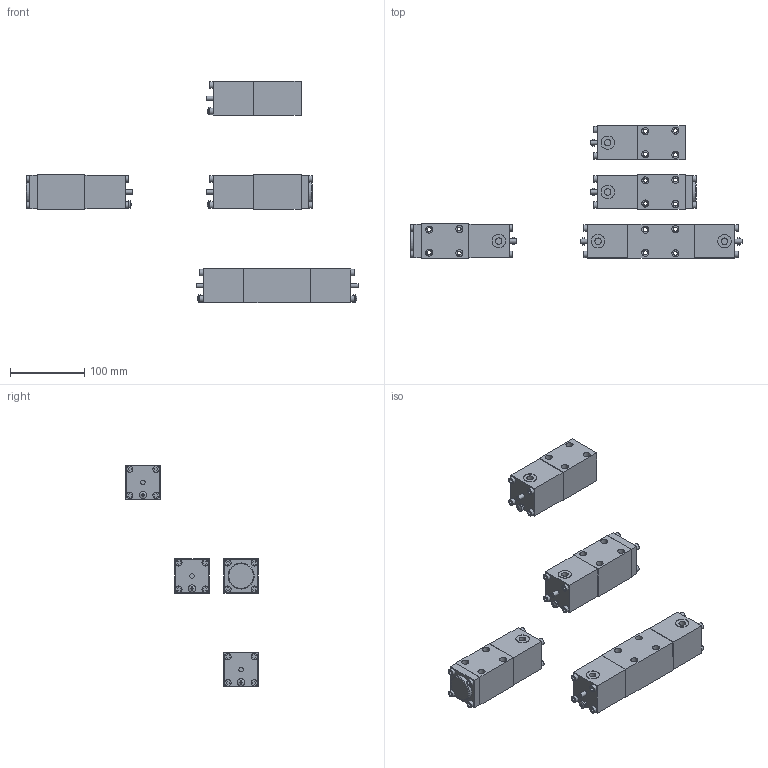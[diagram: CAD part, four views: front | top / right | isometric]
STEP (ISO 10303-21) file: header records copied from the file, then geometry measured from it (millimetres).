
FILE_DESCRIPTION(('Bauteilbeschreibung','HiCAD-Model','HiCAD-STEP-TRANSLATION','Bauteilbeschreibung'),'2;1');
FILE_NAME('C:/_EIGENE_DATEN/DXF_STEP/AK_06_4208..STP','2008-10-14T10:16:37+00:00',('Konstrukteur'),('Konstrukteur Firma GmbH'),' HiCAD neXt 2007, Step 3.1.1212.3C ','HiCAD neXt 2007','confidential');
FILE_SCHEMA(('AUTOMOTIVE_DESIGN { 1 2 10303 214 0 1 1 1 }'));
Length unit declared in the file: millimetre
Products named in the file (62): AK_06_4208 ; AK22061A; ABAEAB18; AB6C5656; AB6C56560; IN6KTM5; IN6KTM50; IN6KTM51; IN6KTM52; IN6KTM53; AK22061A0; AK32061A; AF9318D0; AB6C56561; AB6C56562; IN6KTM54; IN6KTM55; IN6KTM56; IN6KTM57; IN6KTM58; F77E93F1; F77E93F10; IN6KTM59; IN6KTM510; IN6KTM511; IN6KTM512; IN6KTM513; AB294FE8; AK_2060B; A6DB5EC2; F77E93F11; F77E93F12; IN6KTM514; IN6KTM515; IN6KTM516; IN6KTM517; IN6KTM518; AB6C56563; AB6C56564; IN6KTM519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
Assembly tree (61 placements, depth 6):
  AK_06_4208 
    AK22061A
      ABAEAB18
        AB6C5656
        AB6C56560
          IN6KTM5
            IN6KTM50
            IN6KTM51
            IN6KTM52
            IN6KTM53
        AK22061A0
    AK32061A
      AF9318D0
        AB6C56561
        AB6C56562
          IN6KTM54
            IN6KTM55
            IN6KTM56
            IN6KTM57
            IN6KTM58
        F77E93F1
        F77E93F10
          IN6KTM59
            IN6KTM510
            IN6KTM511
            IN6KTM512
            IN6KTM513
        AB294FE8
    AK_2060B
      A6DB5EC2
        F77E93F11
        F77E93F12
          IN6KTM514
            IN6KTM515
            IN6KTM516
            IN6KTM517
            IN6KTM518
        AB6C56563
        AB6C56564
          IN6KTM519
            IN6KTM520
            IN6KTM521
            IN6KTM522
            IN6KTM523
        AB294FE80
    AK3406
      AD0C9233
        AB6C56565
        AB6C56566
          IN6KTM524
            IN6KTM525
            IN6KTM526
            IN6KTM527
            IN6KTM528
        AB6C56567
        AB6C56568
          IN6KTM529
            IN6KTM530
            IN6KTM531
            IN6KTM532
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Bounding box: 446.28 x 178 x 298 mm (x, y, z)
Volume: 1142707.2 mm3; surface area: 198908.7 mm2
Topology: 39 solids, 39 shells, 706 faces, 1522 edges, 1002 vertices
Faces by surface type: plane 520, cylinder 179, sphere 5, cone 2
Full cylindrical faces by diameter (mm): 5 x33, 5.2 x8, 5.5 x36, 6 x5, 8.5 x28, 8.7 x5, 9.5 x16, 10 x5, 12.5 x16, 18 x5, 35 x2
Entity records: 20554 total; most frequent: CARTESIAN_POINT 4601, DIRECTION 3328, ORIENTED_EDGE 2528, EDGE_CURVE 1264, AXIS2_PLACEMENT_3D 1248, EDGE_LOOP 1079, VERTEX_POINT 905, LINE 832
